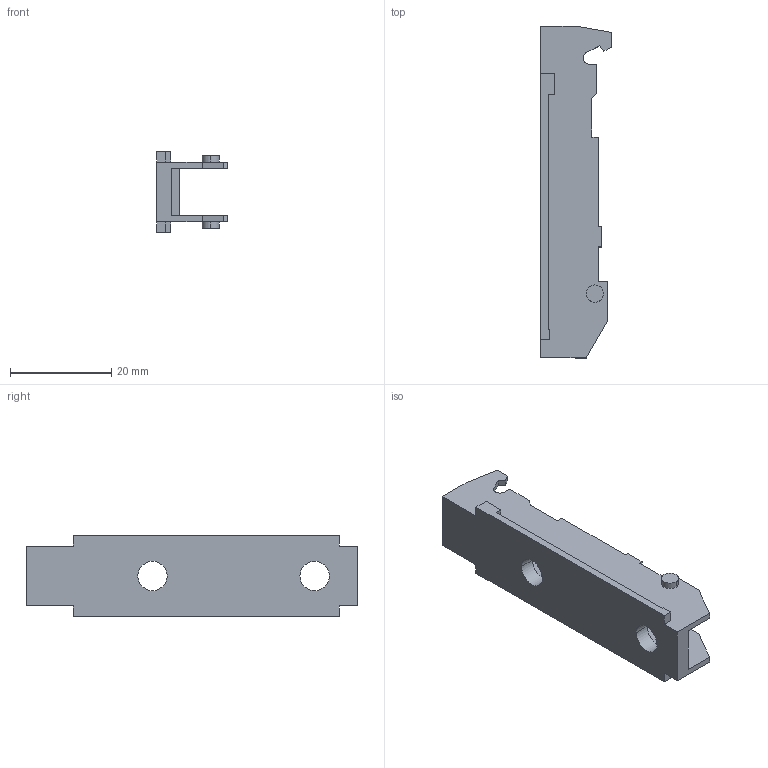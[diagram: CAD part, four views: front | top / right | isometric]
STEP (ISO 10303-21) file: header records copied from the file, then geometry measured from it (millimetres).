
FILE_DESCRIPTION (( 'STEP AP214' ), '1' );
FILE_NAME ('1D_Linearmontageplatte 20_32_Spax_Euro_H3,5.step', '2010-11-18T10:17:22', ( 'grass' ), ( '' ), 'SwSTEP 2.0', 'SolidWorks 2010', '' );
FILE_SCHEMA (( 'AUTOMOTIVE_DESIGN' ));
Length unit declared in the file: millimetre
Products named in the file (1): 1D_Linearmontageplatte 20_32_Spax_Euro_H3,5
Bounding box: 14 x 65.5 x 16 mm (x, y, z)
Volume: 4115.3 mm3; surface area: 4762.5 mm2
Topology: 1 solids, 1 shells, 76 faces, 216 edges, 144 vertices
Faces by surface type: plane 66, cylinder 10
Entity records: 2482 total; most frequent: CARTESIAN_POINT 437, ORIENTED_EDGE 432, DIRECTION 390, EDGE_CURVE 216, VECTOR 196, LINE 196, VERTEX_POINT 144, AXIS2_PLACEMENT_3D 97
